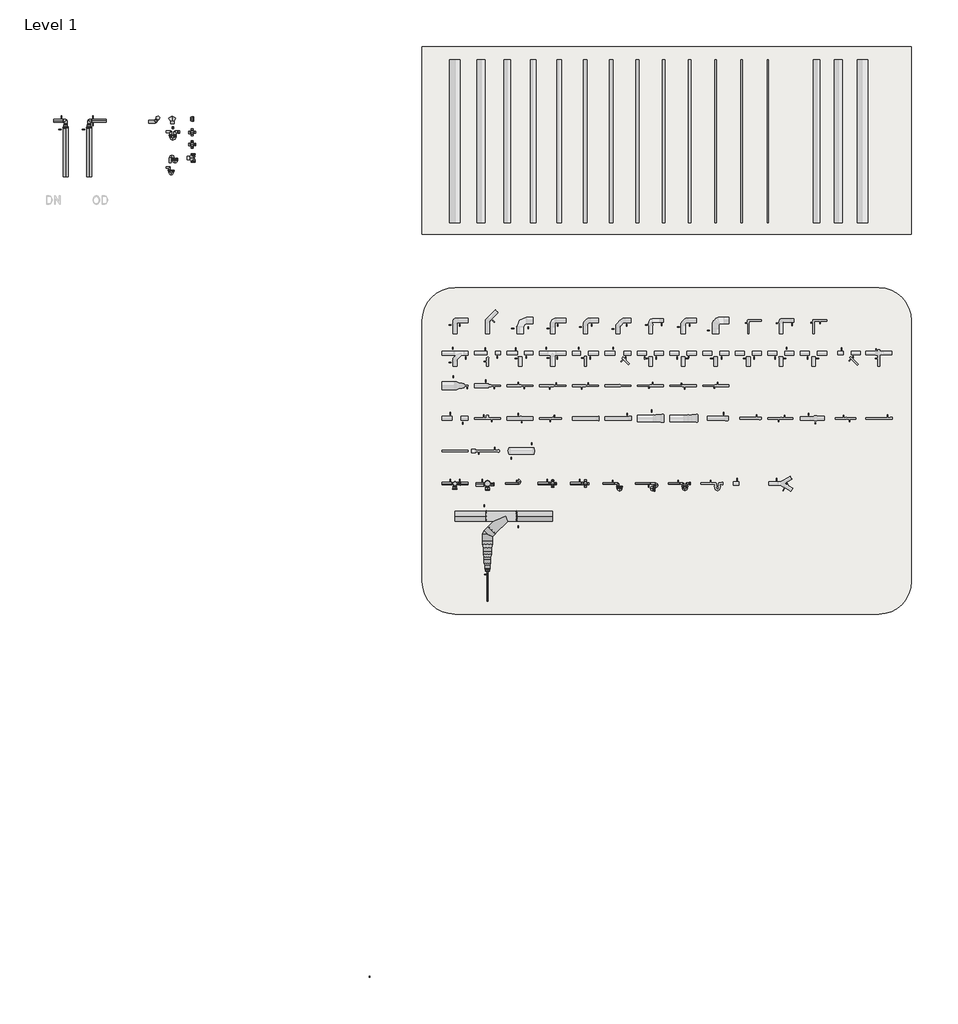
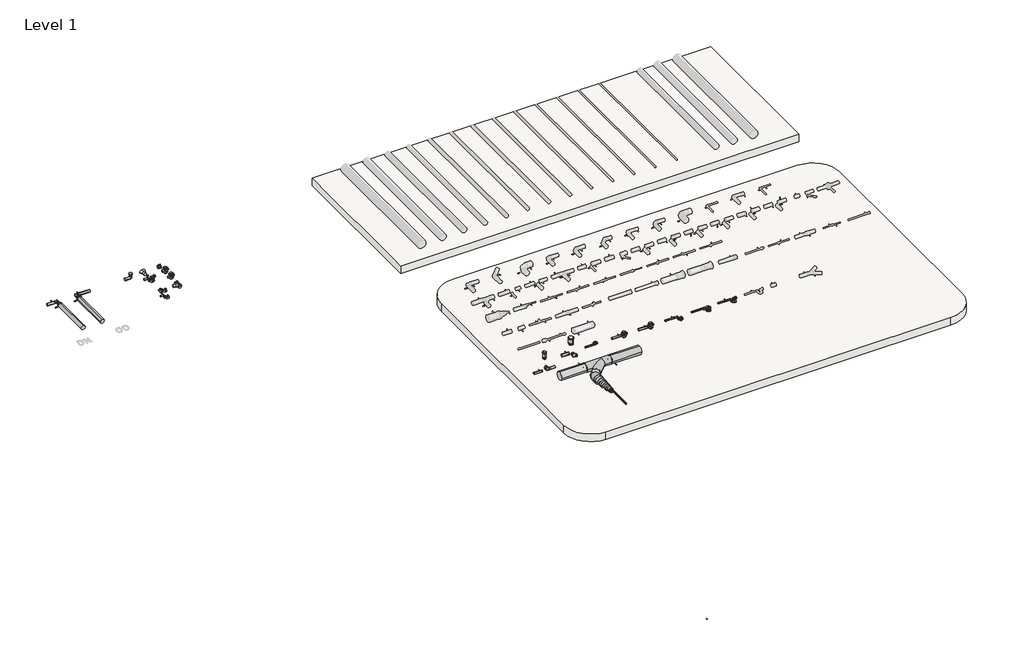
# One storey, part 1 of 6: 55 pipe fittings, 16 pipe segments, 2 slabs.
"""IFC4 building model written with IfcOpenShell, lengths in millimetres."""

from ifc_helpers import new_model, si_unit, point, frame, frame_2d, origin, place, context, project, spatial, polyline, circle_curve, trimmed, segment, composite_curve, outline, extrude, transform, mapped, element, save
from components import pipe_fitting_32baf9d8, var_2668025b, var_42bbe541, var_01cf09ba, var_9c65db2d, var_89c93119, var_733641dc, var_206d1806, var_78c70b53, var_a00c3a62, var_0cec4f12, var_dcd50663, nested_do_not_use_7641d64b, nested_do_not_use_785704b3, nested_do_not_use_4ca71223, nested_do_not_use_88acbfcf, nested_do_not_use_ac7d642e, nested_do_not_use_1a4f5e9d, nested_do_not_use_f8d48da3, nested_do_not_use_b0c1b68e, nested_do_not_use_2af66b91, nested_do_not_use_17b874a4, nested_do_not_use_0499a160, nested_do_not_use_3065b1c8, nested_do_not_use_59c94e66, nested_do_not_use_269007d1, nested_do_not_use_9fcaccac, nested_do_not_use_c7003eac, nested_do_not_use_821c716b, welded_75b1cb19, welded_63566782, welded_6cbd62db, welded_96b689ca, welded_5e4001d0, welded_60098e8d, welded_158fee2e, welded_ac007b25

model = new_model("IFC4")

# Units and contexts
model_context = context("Model", 3, world=origin())
ifc_project = project(units=[si_unit("LENGTHUNIT", "METRE", prefix="MILLI")], contexts=[model_context])

# Site, building, storey
site = spatial("IfcSite", under=ifc_project)
building = spatial("IfcBuilding", under=site)
storey = spatial("IfcBuildingStorey", under=building, Name="Level 1", Elevation=0.0)

# Pipe fittings
placement = place(None, origin())
pipe_fitting_shape = pipe_fitting_32baf9d8(model_context)
element("IfcPipeFitting", 1, ObjectType="NLRS_52_PIF_UN_HDPE weld_Akatherm : ringseal or non-welded", at=placement, inside=storey, context=model_context, shape_type="MappedRepresentation", body=[
    mapped(pipe_fitting_shape, transform((0.0, 0.0, 0.0), x_axis=(1.0, 0.0, 0.0), y_axis=(0.0, -1.0, 0.0), z_axis=(0.0, 0.0, -1.0))),
])
var_shape = var_2668025b(model_context)
element("IfcPipeFitting", 2, ObjectType="NLRS_52_PIF_UN_HDPE bend 180_Akatherm : Var.", at=placement, inside=storey, context=model_context, shape_type="MappedRepresentation", body=[
    mapped(var_shape, transform((4659.9781064, 15273.6274824, 200.0), x_axis=(1.0, 0.0, 0.0), y_axis=(0.0, 1.0, 0.0), z_axis=(0.0, 0.0, 1.0))),
])
var_2_shape = var_42bbe541(model_context)
element("IfcPipeFitting", 3, ObjectType="NLRS_52_PIF_UN_HDPE floor gully pushfit_Akatherm : Var.", at=placement, inside=storey, context=model_context, shape_type="MappedRepresentation", body=[
    mapped(var_2_shape, transform((5659.9781064, 15273.6274824, 97.0), x_axis=(1.0, 0.0, 0.0), y_axis=(0.0, 1.0, 0.0), z_axis=(0.0, 0.0, 1.0))),
])
var_3_shape = var_01cf09ba(model_context)
element("IfcPipeFitting", 4, ObjectType="NLRS_52_PIF_UN_HDPE floor gully weldable_Akatherm : Var.", at=placement, inside=storey, context=model_context, shape_type="MappedRepresentation", body=[
    mapped(var_3_shape, transform((6659.9781064, 15273.6274824, 97.0), x_axis=(1.0, 0.0, 0.0), y_axis=(0.0, 1.0, 0.0), z_axis=(0.0, 0.0, 1.0))),
])
var_4_shape = var_9c65db2d(model_context)
element("IfcPipeFitting", 5, ObjectType="NLRS_52_PIF_UN_HDPE p trap_Akatherm : Var.", at=placement, inside=storey, context=model_context, shape_type="MappedRepresentation", body=[
    mapped(var_4_shape, transform((7759.9781064, 15273.6274824, 200.0), x_axis=(1.0, 0.0, 0.0), y_axis=(0.0, 1.0, 0.0), z_axis=(0.0, 0.0, 1.0))),
])
var_5_shape = var_89c93119(model_context)
element("IfcPipeFitting", 6, ObjectType="NLRS_52_PIF_UN_HDPE s trap_Akatherm : Var.", at=placement, inside=storey, context=model_context, shape_type="MappedRepresentation", body=[
    mapped(var_5_shape, transform((8759.9781064, 15273.6274824, 200.0), x_axis=(1.0, 0.0, 0.0), y_axis=(0.0, -1.0000000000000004, 0.0), z_axis=(0.0, 0.0, -1.0000000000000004))),
])
var_6_shape = var_733641dc(model_context)
element("IfcPipeFitting", 7, ObjectType="NLRS_52_PIF_UN_HDPE u trap_Akatherm : Var.", at=placement, inside=storey, context=model_context, shape_type="MappedRepresentation", body=[
    mapped(var_6_shape, transform((9714.9781064, 15273.6274824, 200.0), x_axis=(1.0, 0.0, 0.0), y_axis=(0.0, 1.0, 0.0), z_axis=(0.0, 0.0, 1.0))),
])
var_7_shape = var_206d1806(model_context)
element("IfcPipeFitting", 8, ObjectType="NLRS_52_PIF_UN_HDPE double wall lavatory bend vertical_Akatherm : Var.", at=placement, inside=storey, context=model_context, shape_type="MappedRepresentation", body=[
    mapped(var_7_shape, transform((-5462.8230721, 25253.3842401, 0.0), x_axis=(1.0, 0.0, 0.0), y_axis=(0.0, 1.0, 0.0), z_axis=(0.0, 0.0, 1.0))),
])
element("IfcPipeFitting", 9, ObjectType="NLRS_52_PIF_UN_HDPE floor gully pushfit_Akatherm : Var.", at=placement, inside=storey, context=model_context, shape_type="MappedRepresentation", body=[
    mapped(var_2_shape, transform((-5394.2200099, 25668.9360439, 0.0), x_axis=(1.0, 0.0, 0.0), y_axis=(0.0, 1.0, 0.0), z_axis=(0.0, 0.0, 1.0))),
])
element("IfcPipeFitting", 10, ObjectType="NLRS_52_PIF_UN_HDPE floor gully weldable_Akatherm : Var.", at=placement, inside=storey, context=model_context, shape_type="MappedRepresentation", body=[
    mapped(var_3_shape, transform((-5394.2200099, 26041.0833111, 0.0), x_axis=(1.0, 0.0, 0.0), y_axis=(0.0, 1.0, 0.0), z_axis=(0.0, 0.0, 1.0))),
])
var_8_shape = var_78c70b53(model_context)
element("IfcPipeFitting", 11, ObjectType="NLRS_52_PIF_UN_HDPE floor lavatory socket_Akatherm : Var.", at=placement, inside=storey, context=model_context, shape_type="MappedRepresentation", body=[
    mapped(var_8_shape, transform((-5394.2200099, 26449.1102771, 0.0), x_axis=(1.0, 0.0, 0.0), y_axis=(0.0, 1.0, 0.0), z_axis=(0.0, 0.0, 1.0))),
])
element("IfcPipeFitting", 12, ObjectType="NLRS_52_PIF_UN_HDPE s trap_Akatherm : Var.", at=placement, inside=storey, context=model_context, shape_type="MappedRepresentation", body=[
    mapped(var_5_shape, transform((-6072.1329693, 25208.8821143, 0.0), x_axis=(0.0, 1.0, 0.0), y_axis=(1.0000000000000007, 0.0, 0.0), z_axis=(0.0, 0.0, -1.0000000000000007))),
])
var_9_shape = var_a00c3a62(model_context)
element("IfcPipeFitting", 13, ObjectType="NLRS_52_PIF_UN_HDPE u trap_Akatherm : Var.", at=placement, inside=storey, context=model_context, shape_type="MappedRepresentation", body=[
    mapped(var_9_shape, transform((-5990.4101088, 26052.3952652, 0.0), x_axis=(1.0, 0.0, 0.0), y_axis=(0.0, 1.0, 0.0), z_axis=(0.0, 0.0, 1.0))),
])
var_10_shape = var_0cec4f12(model_context)
element("IfcPipeFitting", 14, ObjectType="NLRS_52_PIF_UN_HDPE wall lavatory bend angled_Akatherm : Var.", at=placement, inside=storey, context=model_context, shape_type="MappedRepresentation", body=[
    mapped(var_10_shape, transform((-6528.1116092, 26368.2308183, 0.0), x_axis=(1.0, 0.0, 0.0), y_axis=(0.0, 1.0, 0.0), z_axis=(0.0, 0.0, 1.0))),
])
var_11_shape = var_dcd50663(model_context)
element("IfcPipeFitting", 15, ObjectType="NLRS_52_PIF_UN_HDPE y branch_Akatherm : Var.", at=placement, inside=storey, context=model_context, shape_type="MappedRepresentation", body=[
    mapped(var_11_shape, transform((-6006.2789726, 26396.2206472, 0.0), x_axis=(0.0, 1.0000000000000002, 0.0), y_axis=(-1.0000000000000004, 0.0, 0.0), z_axis=(0.0, 0.0, 1.0000000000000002))),
])
element("IfcPipeFitting", 16, ObjectType="NLRS_52_PIF_UN_HDPE p trap_Akatherm : Var.", at=placement, inside=storey, context=model_context, shape_type="MappedRepresentation", body=[
    mapped(var_4_shape, transform((-5990.4101088, 24964.0057524, 0.0), x_axis=(1.0, 0.0, 0.0), y_axis=(0.0, 1.0, 0.0), z_axis=(0.0, 0.0, 1.0))),
])
nested_do_not_use_shape = nested_do_not_use_7641d64b(model_context)
element("IfcPipeFitting", 17, ObjectType="NLRS_52_PIF_UN_HDPE elbow for bend assembly -SH_Akatherm : nested, do not use", at=placement, inside=storey, context=model_context, shape_type="MappedRepresentation", body=[
    mapped(nested_do_not_use_shape, transform((-9278.4772443, 26396.2206472, 0.0), x_axis=(0.0, 1.0, 0.0), y_axis=(-1.0, 0.0, 0.0), z_axis=(0.0, 0.0, 1.0))),
])
element("IfcPipeFitting", 18, ObjectType="NLRS_52_PIF_UN_HDPE elbow for bend assembly -SH_Akatherm : nested, do not use", at=placement, inside=storey, context=model_context, shape_type="MappedRepresentation", body=[
    mapped(nested_do_not_use_shape, transform((-8558.4772443, 26396.2206472, 0.0), x_axis=(-1.0, 0.0, 0.0), y_axis=(0.0, -1.0, 0.0), z_axis=(0.0, 0.0, 1.0))),
])
nested_do_not_use_2_shape = nested_do_not_use_785704b3(model_context)
element("IfcPipeFitting", 19, ObjectType="NLRS_52_PIF_UN_HDPE elbow for branch assembly -SH_Akatherm : nested, do not use", at=placement, inside=storey, context=model_context, shape_type="MappedRepresentation", body=[
    mapped(nested_do_not_use_2_shape, transform((3659.9781064, 13716.0030748, 200.0), x_axis=(0.0, 1.0, 0.0), y_axis=(-1.0, 0.0, 0.0), z_axis=(0.0, 0.0, 1.0))),
])
nested_do_not_use_3_shape = nested_do_not_use_4ca71223(model_context)
element("IfcPipeFitting", 20, ObjectType="NLRS_52_PIF_UN_HDPE expansion socket with anchor point -SH_Akatherm : nested, do not use", at=placement, inside=storey, context=model_context, shape_type="MappedRepresentation", body=[
    mapped(nested_do_not_use_3_shape, transform((2659.9781064, 15273.6274824, 329.5), x_axis=(0.0, 0.0, 1.0), y_axis=(0.0, 1.0000000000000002, 0.0), z_axis=(-1.0000000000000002, 0.0, 0.0))),
])
nested_do_not_use_4_shape = nested_do_not_use_88acbfcf(model_context)
element("IfcPipeFitting", 21, ObjectType="NLRS_52_PIF_UN_HDPE expansion socket with anchor point -SH_Akatherm : nested, do not use", at=placement, inside=storey, context=model_context, shape_type="MappedRepresentation", body=[
    mapped(nested_do_not_use_4_shape, transform((3659.9781064, 15273.6274824, 562.0), x_axis=(0.0, 0.0, 1.0), y_axis=(0.0, 1.0000000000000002, 0.0), z_axis=(-1.0000000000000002, 0.0, 0.0))),
])
nested_do_not_use_5_shape = nested_do_not_use_ac7d642e(model_context)
element("IfcPipeFitting", 22, ObjectType="NLRS_52_PIF_UN_HDPE plugin socket -SH_Akatherm : nested, do not use", at=placement, inside=storey, context=model_context, shape_type="MappedRepresentation", body=[
    mapped(nested_do_not_use_5_shape, transform((2659.9781064, 15165.8274824, 0.0), x_axis=(0.0, -1.0000000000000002, 0.0), y_axis=(0.0, 0.0, 1.0), z_axis=(-1.0000000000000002, 0.0, 0.0))),
])
element("IfcPipeFitting", 23, ObjectType="NLRS_52_PIF_UN_HDPE plugin socket -SH_Akatherm : nested, do not use", at=placement, inside=storey, context=model_context, shape_type="MappedRepresentation", body=[
    mapped(nested_do_not_use_5_shape, transform((3659.9781064, 15140.8274824, 200.0), x_axis=(0.0, -1.0000000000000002, 0.0), y_axis=(0.0, 0.0, 1.0), z_axis=(-1.0000000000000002, 0.0, 0.0))),
])
nested_do_not_use_6_shape = nested_do_not_use_1a4f5e9d(model_context)
element("IfcPipeFitting", 24, ObjectType="NLRS_52_PIF_UN_HDPE plugin socket -SH_Akatherm : nested, do not use", at=placement, inside=storey, context=model_context, shape_type="MappedRepresentation", body=[
    mapped(nested_do_not_use_6_shape, transform((2767.2781064, 15273.6274824, -170.0), x_axis=(1.0000000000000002, 0.0, 0.0), y_axis=(0.0, 0.0, 1.0), z_axis=(0.0, -1.0000000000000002, 0.0))),
])
element("IfcPipeFitting", 25, ObjectType="NLRS_52_PIF_UN_HDPE plugin socket -SH_Akatherm : nested, do not use", at=placement, inside=storey, context=model_context, shape_type="MappedRepresentation", body=[
    mapped(nested_do_not_use_6_shape, transform((3792.2781064, 15248.6274824, 30.0), x_axis=(1.0000000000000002, 0.0, 0.0), y_axis=(0.0, 0.0, 1.0), z_axis=(0.0, -1.0000000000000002, 0.0))),
])
nested_do_not_use_7_shape = nested_do_not_use_f8d48da3(model_context)
element("IfcPipeFitting", 26, ObjectType="NLRS_52_PIF_UN_HDPE reducer -SH_Akatherm : nested, do not use", at=placement, inside=storey, context=model_context, shape_type="MappedRepresentation", body=[
    mapped(nested_do_not_use_7_shape, transform((-9278.4772443, 26211.0206472, 0.0), x_axis=(0.0, 1.0, 0.0), y_axis=(-1.0, 0.0, 0.0), z_axis=(0.0, 0.0, 1.0))),
])
element("IfcPipeFitting", 27, ObjectType="NLRS_52_PIF_UN_HDPE reducer -SH_Akatherm : nested, do not use", at=placement, inside=storey, context=model_context, shape_type="MappedRepresentation", body=[
    mapped(nested_do_not_use_7_shape, transform((-8558.4772443, 26211.0206472, 0.0), x_axis=(0.0, 1.0, 0.0), y_axis=(-1.0, 0.0, 0.0), z_axis=(0.0, 0.0, 1.0))),
])
nested_do_not_use_8_shape = nested_do_not_use_b0c1b68e(model_context)
element("IfcPipeFitting", 28, ObjectType="NLRS_52_PIF_UN_HDPE reducer -SH_Akatherm : nested, do not use", at=placement, inside=storey, context=model_context, shape_type="MappedRepresentation", body=[
    mapped(nested_do_not_use_8_shape, transform((3659.9781064, 13368.1530748, 200.0), x_axis=(0.0, -1.0, 0.0), y_axis=(1.0, 0.0, 0.0), z_axis=(0.0, 0.0, 1.0))),
])
nested_do_not_use_9_shape = nested_do_not_use_2af66b91(model_context)
element("IfcPipeFitting", 29, ObjectType="NLRS_52_PIF_UN_HDPE reducer -SH_Akatherm : nested, do not use", at=placement, inside=storey, context=model_context, shape_type="MappedRepresentation", body=[
    mapped(nested_do_not_use_9_shape, transform((3659.9781064, 13067.3030748, 229.0), x_axis=(0.0, -1.0, 0.0), y_axis=(1.0, 0.0, 0.0), z_axis=(0.0, 0.0, 1.0))),
])
nested_do_not_use_10_shape = nested_do_not_use_17b874a4(model_context)
element("IfcPipeFitting", 30, ObjectType="NLRS_52_PIF_UN_HDPE reducer -SH_Akatherm : nested, do not use", at=placement, inside=storey, context=model_context, shape_type="MappedRepresentation", body=[
    mapped(nested_do_not_use_10_shape, transform((3659.9781064, 12803.7030748, 251.5), x_axis=(0.0, -1.0, 0.0), y_axis=(1.0, 0.0, 0.0), z_axis=(0.0, 0.0, 1.0))),
])
nested_do_not_use_11_shape = nested_do_not_use_0499a160(model_context)
element("IfcPipeFitting", 31, ObjectType="NLRS_52_PIF_UN_HDPE reducer -SH_Akatherm : nested, do not use", at=placement, inside=storey, context=model_context, shape_type="MappedRepresentation", body=[
    mapped(nested_do_not_use_11_shape, transform((3659.9781064, 12643.1030748, 269.0), x_axis=(0.0, -1.0, 0.0), y_axis=(1.0, 0.0, 0.0), z_axis=(0.0, 0.0, 1.0))),
])
nested_do_not_use_12_shape = nested_do_not_use_3065b1c8(model_context)
element("IfcPipeFitting", 32, ObjectType="NLRS_52_PIF_UN_HDPE reducer -SH_Akatherm : nested, do not use", at=placement, inside=storey, context=model_context, shape_type="MappedRepresentation", body=[
    mapped(nested_do_not_use_12_shape, transform((3659.9781064, 12570.5030748, 292.0), x_axis=(0.0, -1.0, 0.0), y_axis=(1.0, 0.0, 0.0), z_axis=(0.0, 0.0, 1.0))),
])
nested_do_not_use_13_shape = nested_do_not_use_59c94e66(model_context)
element("IfcPipeFitting", 33, ObjectType="NLRS_52_PIF_UN_HDPE reducer -SH_Akatherm : nested, do not use", at=placement, inside=storey, context=model_context, shape_type="MappedRepresentation", body=[
    mapped(nested_do_not_use_13_shape, transform((-9278.4772443, 26283.6206472, 0.0), x_axis=(0.0, 1.0, 0.0), y_axis=(-1.0, 0.0, 0.0), z_axis=(0.0, 0.0, 1.0))),
])
element("IfcPipeFitting", 34, ObjectType="NLRS_52_PIF_UN_HDPE reducer -SH_Akatherm : nested, do not use", at=placement, inside=storey, context=model_context, shape_type="MappedRepresentation", body=[
    mapped(nested_do_not_use_13_shape, transform((-8558.4772443, 26283.6206472, 0.0), x_axis=(0.0, 1.0, 0.0), y_axis=(-1.0, 0.0, 0.0), z_axis=(0.0, 0.0, 1.0))),
])
nested_do_not_use_14_shape = nested_do_not_use_269007d1(model_context)
element("IfcPipeFitting", 35, ObjectType="NLRS_52_PIF_UN_HDPE rubber sleeve -SH_Akatherm : nested, do not use", at=placement, inside=storey, context=model_context, shape_type="MappedRepresentation", body=[
    mapped(nested_do_not_use_14_shape, transform((-5979.4101088, 26180.4206472, 0.0), x_axis=(1.0, 0.0, 0.0), y_axis=(0.0, 1.0, 0.0), z_axis=(0.0, 0.0, 1.0))),
])
nested_do_not_use_15_shape = nested_do_not_use_9fcaccac(model_context)
element("IfcPipeFitting", 36, ObjectType="NLRS_52_PIF_UN_HDPE trap connecting socket -SH_Akatherm : nested, do not use", at=placement, inside=storey, context=model_context, shape_type="MappedRepresentation", body=[
    mapped(nested_do_not_use_15_shape, transform((-5990.4101088, 26180.4206472, 0.0), x_axis=(1.0, 0.0, 0.0), y_axis=(0.0, 1.0, 0.0), z_axis=(0.0, 0.0, 1.0))),
])
nested_do_not_use_16_shape = nested_do_not_use_c7003eac(model_context)
element("IfcPipeFitting", 37, ObjectType="NLRS_52_PIF_UN_HDPE equal branch -SH_Akatherm : nested, do not use", at=placement, inside=storey, context=model_context, shape_type="MappedRepresentation", body=[
    mapped(nested_do_not_use_16_shape, transform((4217.6025141, 14273.6274824, 200.0), x_axis=(-1.0, 0.0, 0.0), y_axis=(0.0, -1.0, 0.0), z_axis=(0.0, 0.0, 1.0))),
])
nested_do_not_use_17_shape = nested_do_not_use_821c716b(model_context)
element("IfcPipeFitting", 38, ObjectType="NLRS_52_PIF_UN_HDPE rubber seal -SH_Akatherm : nested, do not use", at=placement, inside=storey, context=model_context, shape_type="MappedRepresentation", body=[
    mapped(nested_do_not_use_17_shape, transform((-5350.2200099, 26449.1102771, 0.0), x_axis=(1.0, 0.0, 0.0), y_axis=(0.0, 1.0, 0.0), z_axis=(0.0, 0.0, 1.0))),
])
welded_shape = welded_75b1cb19(model_context)
element("IfcPipeFitting", 39, ObjectType="NLRS_52_PIF_UN_HDPE weld_Akatherm : welded", at=placement, inside=storey, context=model_context, shape_type="MappedRepresentation", body=[
    mapped(welded_shape, transform((4606.6781064, 15273.6274824, 200.0), x_axis=(-1.0, 0.0, 0.0), y_axis=(0.0, -0.9982876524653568, 0.05849583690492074), z_axis=(0.0, 0.05849583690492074, 0.9982876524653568))),
])
element("IfcPipeFitting", 40, ObjectType="NLRS_52_PIF_UN_HDPE weld_Akatherm : welded", at=placement, inside=storey, context=model_context, shape_type="MappedRepresentation", body=[
    mapped(welded_shape, transform((7557.6781064, 15273.6274824, 200.0), x_axis=(-1.0, 0.0, 0.0), y_axis=(0.0, -1.0, 0.0), z_axis=(0.0, 0.0, 1.0))),
])
element("IfcPipeFitting", 41, ObjectType="NLRS_52_PIF_UN_HDPE weld_Akatherm : welded", at=placement, inside=storey, context=model_context, shape_type="MappedRepresentation", body=[
    mapped(welded_shape, transform((8655.1781064, 15273.6274824, 200.0), x_axis=(-1.0, 0.0, 0.0), y_axis=(0.0, 1.0, 0.0), z_axis=(0.0, 0.0, -1.0))),
])
element("IfcPipeFitting", 42, ObjectType="NLRS_52_PIF_UN_HDPE weld_Akatherm : welded", at=placement, inside=storey, context=model_context, shape_type="MappedRepresentation", body=[
    mapped(welded_shape, transform((9557.6781064, 15273.6274824, 200.0), x_axis=(-1.0, 0.0, 0.0), y_axis=(0.0, -1.0, 0.0), z_axis=(0.0, 0.0, 1.0))),
])
welded_2_shape = welded_63566782(model_context)
element("IfcPipeFitting", 43, ObjectType="NLRS_52_PIF_UN_HDPE weld_Akatherm : welded", at=placement, inside=storey, context=model_context, shape_type="MappedRepresentation", body=[
    mapped(welded_2_shape, transform((3659.9781064, 12532.2030748, 325.0), x_axis=(0.0, -1.0, 0.0), y_axis=(1.0, 0.0, 0.0), z_axis=(0.0, 0.0, 1.0))),
])
welded_3_shape = welded_6cbd62db(model_context)
element("IfcPipeFitting", 44, ObjectType="NLRS_52_PIF_UN_HDPE weld_Akatherm : welded", at=placement, inside=storey, context=model_context, shape_type="MappedRepresentation", body=[
    mapped(welded_3_shape, transform((2572.1781064, 15273.6274824, -170.0), x_axis=(-1.0, 0.0, 0.0), y_axis=(0.0, -1.0, 0.0), z_axis=(0.0, 0.0, 1.0))),
])
element("IfcPipeFitting", 45, ObjectType="NLRS_52_PIF_UN_HDPE weld_Akatherm : welded", at=placement, inside=storey, context=model_context, shape_type="MappedRepresentation", body=[
    mapped(welded_3_shape, transform((2767.2781064, 15273.6274824, -170.0), x_axis=(1.0, 0.0, 0.0), y_axis=(0.0, -1.0, 0.0), z_axis=(0.0, 0.0, -1.0))),
])
element("IfcPipeFitting", 46, ObjectType="NLRS_52_PIF_UN_HDPE weld_Akatherm : welded", at=placement, inside=storey, context=model_context, shape_type="MappedRepresentation", body=[
    mapped(welded_3_shape, transform((5545.5781064, 15273.6274824, 200.0), x_axis=(-1.0, 0.0, 0.0), y_axis=(0.0, -1.0, 0.0), z_axis=(0.0, 0.0, 1.0))),
])
element("IfcPipeFitting", 47, ObjectType="NLRS_52_PIF_UN_HDPE weld_Akatherm : welded", at=placement, inside=storey, context=model_context, shape_type="MappedRepresentation", body=[
    mapped(welded_3_shape, transform((6545.5781064, 15273.6274824, 200.0), x_axis=(-1.0, 0.0, 0.0), y_axis=(0.0, -1.0, 0.0), z_axis=(0.0, 0.0, 1.0))),
])
welded_4_shape = welded_96b689ca(model_context)
element("IfcPipeFitting", 48, ObjectType="NLRS_52_PIF_UN_HDPE weld_Akatherm : welded", at=placement, inside=storey, context=model_context, shape_type="MappedRepresentation", body=[
    mapped(welded_4_shape, transform((3615.8025141, 14273.6274824, 200.0), x_axis=(-1.0, 0.0, 0.0), y_axis=(0.0, -1.0, 0.0), z_axis=(0.0, 0.0, 1.0))),
])
element("IfcPipeFitting", 49, ObjectType="NLRS_52_PIF_UN_HDPE weld_Akatherm : welded", at=placement, inside=storey, context=model_context, shape_type="MappedRepresentation", body=[
    mapped(welded_4_shape, transform((4549.4025141, 14273.6274824, 200.0), x_axis=(1.0, 0.0, 0.0), y_axis=(0.0, 1.0, 0.0), z_axis=(0.0, 0.0, 1.0))),
])
welded_5_shape = welded_5e4001d0(model_context)
element("IfcPipeFitting", 50, ObjectType="NLRS_52_PIF_UN_HDPE weld_Akatherm : welded", at=placement, inside=storey, context=model_context, shape_type="MappedRepresentation", body=[
    mapped(welded_5_shape, transform((-9354.7772443, 26396.2206472, 0.0), x_axis=(-1.0, 0.0, 0.0), y_axis=(0.0, -1.0, 0.0), z_axis=(0.0, 0.0, 1.0))),
])
element("IfcPipeFitting", 51, ObjectType="NLRS_52_PIF_UN_HDPE weld_Akatherm : welded", at=placement, inside=storey, context=model_context, shape_type="MappedRepresentation", body=[
    mapped(welded_5_shape, transform((-8482.1772443, 26396.2206472, 0.0), x_axis=(1.0, 0.0, 0.0), y_axis=(0.0, 1.0, 0.0), z_axis=(0.0, 0.0, 1.0))),
])
welded_6_shape = welded_60098e8d(model_context)
element("IfcPipeFitting", 52, ObjectType="NLRS_52_PIF_UN_HDPE weld_Akatherm : welded", at=placement, inside=storey, context=model_context, shape_type="MappedRepresentation", body=[
    mapped(welded_6_shape, transform((-9278.4772443, 26175.7206472, 0.0), x_axis=(0.0, -1.0, 0.0), y_axis=(1.0, 0.0, 0.0), z_axis=(0.0, 0.0, 1.0))),
])
element("IfcPipeFitting", 53, ObjectType="NLRS_52_PIF_UN_HDPE weld_Akatherm : welded", at=placement, inside=storey, context=model_context, shape_type="MappedRepresentation", body=[
    mapped(welded_6_shape, transform((-8558.4772443, 26175.7206472, 0.0), x_axis=(0.0, -1.0, 0.0), y_axis=(1.0, 0.0, 0.0), z_axis=(0.0, 0.0, 1.0))),
])
welded_7_shape = welded_158fee2e(model_context)
element("IfcPipeFitting", 54, ObjectType="NLRS_52_PIF_UN_HDPE weld_Akatherm : welded", at=placement, inside=storey, context=model_context, shape_type="MappedRepresentation", body=[
    mapped(welded_7_shape, transform((-8482.1772443, 26396.2206472, 0.0), x_axis=(1.0, 0.0, 0.0), y_axis=(0.0, 1.0, 0.0), z_axis=(0.0, 0.0, 1.0))),
])
welded_8_shape = welded_ac007b25(model_context)
element("IfcPipeFitting", 55, ObjectType="NLRS_52_PIF_UN_HDPE weld_Akatherm : welded", at=placement, inside=storey, context=model_context, shape_type="MappedRepresentation", body=[
    mapped(welded_8_shape, transform((3557.1781064, 15248.6274824, 200.0), x_axis=(-1.0, 0.0, 0.0), y_axis=(0.0, -1.0, 0.0), z_axis=(0.0, 0.0, 1.0))),
])

# Pipe segments
element("IfcPipeSegment", 56, ObjectType="NLRS_52_PI_HDPE buis (DN)_Akatherm", at=placement, inside=storey, context=model_context, shape_type="SweptSolid", body=[
    extrude(outline(composite_curve([segment(trimmed(circle_curve(frame_2d((15248.6274824, 200.0)), 55.0), [point((15303.6274824, 200.0))], [point((15248.6274824, 145.0))], False, "CARTESIAN"), True, "CONTINUOUS"), segment(trimmed(circle_curve(frame_2d((15248.6274824, 200.0)), 55.0), [point((15248.6274824, 145.0))], [point((15193.6274824, 200.0))], False, "CARTESIAN"), True, "CONTINUOUS"), segment(trimmed(circle_curve(frame_2d((15248.6274824, 200.0)), 55.0), [point((15193.6274824, 200.0))], [point((15248.6274824, 255.0))], False, "CARTESIAN"), True, "CONTINUOUS"), segment(trimmed(circle_curve(frame_2d((15248.6274824, 200.0)), 55.0), [point((15248.6274824, 255.0))], [point((15303.6274824, 200.0))], False, "CARTESIAN"), True, "CONTINUOUS")], self_intersect=False)), frame((3300.9781064, 0.0, 0.0), z_axis=(1.0, 0.0, 0.0), x_axis=(0.0, 1.0, 0.0)), (0.0, 0.0, 1.0), 259.9),
])
element("IfcPipeSegment", 57, ObjectType="NLRS_52_PI_HDPE buis (DN)_Akatherm", at=placement, inside=storey, context=model_context, shape_type="SweptSolid", body=[
    extrude(outline(composite_curve([segment(trimmed(circle_curve(frame_2d((15273.6274824, -170.0)), 37.5), [point((15311.1274824, -170.0))], [point((15273.6274824, -207.5))], False, "CARTESIAN"), True, "CONTINUOUS"), segment(trimmed(circle_curve(frame_2d((15273.6274824, -170.0)), 37.5), [point((15273.6274824, -207.5))], [point((15236.1274824, -170.0))], False, "CARTESIAN"), True, "CONTINUOUS"), segment(trimmed(circle_curve(frame_2d((15273.6274824, -170.0)), 37.5), [point((15236.1274824, -170.0))], [point((15273.6274824, -132.5))], False, "CARTESIAN"), True, "CONTINUOUS"), segment(trimmed(circle_curve(frame_2d((15273.6274824, -170.0)), 37.5), [point((15273.6274824, -132.5))], [point((15311.1274824, -170.0))], False, "CARTESIAN"), True, "CONTINUOUS")], self_intersect=False)), frame((2259.9781064, 0.0, 0.0), z_axis=(1.0, 0.0, 0.0), x_axis=(0.0, 1.0, 0.0)), (0.0, 0.0, 1.0), 314.7),
])
element("IfcPipeSegment", 58, ObjectType="NLRS_52_PI_HDPE buis (DN)_Akatherm", at=placement, inside=storey, context=model_context, shape_type="SweptSolid", body=[
    extrude(outline(composite_curve([segment(trimmed(circle_curve(frame_2d((15273.6274824, -170.0)), 37.5), [point((15236.1274824, -170.0))], [point((15273.6274824, -132.5))], False, "CARTESIAN"), True, "CONTINUOUS"), segment(trimmed(circle_curve(frame_2d((15273.6274824, -170.0)), 37.5), [point((15273.6274824, -132.5))], [point((15311.1274824, -170.0))], False, "CARTESIAN"), True, "CONTINUOUS"), segment(trimmed(circle_curve(frame_2d((15273.6274824, -170.0)), 37.5), [point((15311.1274824, -170.0))], [point((15273.6274824, -207.5))], False, "CARTESIAN"), True, "CONTINUOUS"), segment(trimmed(circle_curve(frame_2d((15273.6274824, -170.0)), 37.5), [point((15273.6274824, -207.5))], [point((15236.1274824, -170.0))], False, "CARTESIAN"), True, "CONTINUOUS")], self_intersect=False)), frame((2764.7781064, 0.0, 0.0), z_axis=(1.0, 0.0, 0.0), x_axis=(0.0, 1.0, 0.0)), (0.0, 0.0, 1.0), 295.2),
])
element("IfcPipeSegment", 59, ObjectType="NLRS_52_PI_HDPE buis (DN)_Akatherm", at=placement, inside=storey, context=model_context, shape_type="SweptSolid", body=[
    extrude(outline(composite_curve([segment(trimmed(circle_curve(frame_2d((15273.6274824, 200.0)), 25.0), [point((15298.6274824, 200.0))], [point((15273.6274824, 175.0))], False, "CARTESIAN"), True, "CONTINUOUS"), segment(trimmed(circle_curve(frame_2d((15273.6274824, 200.0)), 25.0), [point((15273.6274824, 175.0))], [point((15248.6274824, 200.0))], False, "CARTESIAN"), True, "CONTINUOUS"), segment(trimmed(circle_curve(frame_2d((15273.6274824, 200.0)), 25.0), [point((15248.6274824, 200.0))], [point((15273.6274824, 225.0))], False, "CARTESIAN"), True, "CONTINUOUS"), segment(trimmed(circle_curve(frame_2d((15273.6274824, 200.0)), 25.0), [point((15273.6274824, 225.0))], [point((15298.6274824, 200.0))], False, "CARTESIAN"), True, "CONTINUOUS")], self_intersect=False)), frame((4204.9781064, 0.0, 0.0), z_axis=(1.0, 0.0, 0.0), x_axis=(0.0, 1.0, 0.0)), (0.0, 0.0, 1.0), 403.4),
])
element("IfcPipeSegment", 60, ObjectType="NLRS_52_PI_HDPE buis (DN)_Akatherm", at=placement, inside=storey, context=model_context, shape_type="SweptSolid", body=[
    extrude(outline(composite_curve([segment(trimmed(circle_curve(frame_2d((15273.6274824, 200.0)), 37.5), [point((15311.1274824, 200.0))], [point((15273.6274824, 162.5))], False, "CARTESIAN"), True, "CONTINUOUS"), segment(trimmed(circle_curve(frame_2d((15273.6274824, 200.0)), 37.5), [point((15273.6274824, 162.5))], [point((15236.1274824, 200.0))], False, "CARTESIAN"), True, "CONTINUOUS"), segment(trimmed(circle_curve(frame_2d((15273.6274824, 200.0)), 37.5), [point((15236.1274824, 200.0))], [point((15273.6274824, 237.5))], False, "CARTESIAN"), True, "CONTINUOUS"), segment(trimmed(circle_curve(frame_2d((15273.6274824, 200.0)), 37.5), [point((15273.6274824, 237.5))], [point((15311.1274824, 200.0))], False, "CARTESIAN"), True, "CONTINUOUS")], self_intersect=False)), frame((5204.9781064, 0.0, 0.0), z_axis=(1.0, 0.0, 0.0), x_axis=(0.0, 1.0, 0.0)), (0.0, 0.0, 1.0), 343.1),
])
element("IfcPipeSegment", 61, ObjectType="NLRS_52_PI_HDPE buis (DN)_Akatherm", at=placement, inside=storey, context=model_context, shape_type="SweptSolid", body=[
    extrude(outline(composite_curve([segment(trimmed(circle_curve(frame_2d((15273.6274824, 200.0)), 37.5), [point((15311.1274824, 200.0))], [point((15273.6274824, 162.5))], False, "CARTESIAN"), True, "CONTINUOUS"), segment(trimmed(circle_curve(frame_2d((15273.6274824, 200.0)), 37.5), [point((15273.6274824, 162.5))], [point((15236.1274824, 200.0))], False, "CARTESIAN"), True, "CONTINUOUS"), segment(trimmed(circle_curve(frame_2d((15273.6274824, 200.0)), 37.5), [point((15236.1274824, 200.0))], [point((15273.6274824, 237.5))], False, "CARTESIAN"), True, "CONTINUOUS"), segment(trimmed(circle_curve(frame_2d((15273.6274824, 200.0)), 37.5), [point((15273.6274824, 237.5))], [point((15311.1274824, 200.0))], False, "CARTESIAN"), True, "CONTINUOUS")], self_intersect=False)), frame((6204.9781064, 0.0, 0.0), z_axis=(1.0, 0.0, 0.0), x_axis=(0.0, 1.0, 0.0)), (0.0, 0.0, 1.0), 343.1),
])
element("IfcPipeSegment", 62, ObjectType="NLRS_52_PI_HDPE buis (DN)_Akatherm", at=placement, inside=storey, context=model_context, shape_type="SweptSolid", body=[
    extrude(outline(composite_curve([segment(trimmed(circle_curve(frame_2d((15273.6274824, 200.0)), 25.0), [point((15298.6274824, 200.0))], [point((15273.6274824, 175.0))], False, "CARTESIAN"), True, "CONTINUOUS"), segment(trimmed(circle_curve(frame_2d((15273.6274824, 200.0)), 25.0), [point((15273.6274824, 175.0))], [point((15248.6274824, 200.0))], False, "CARTESIAN"), True, "CONTINUOUS"), segment(trimmed(circle_curve(frame_2d((15273.6274824, 200.0)), 25.0), [point((15248.6274824, 200.0))], [point((15273.6274824, 225.0))], False, "CARTESIAN"), True, "CONTINUOUS"), segment(trimmed(circle_curve(frame_2d((15273.6274824, 200.0)), 25.0), [point((15273.6274824, 225.0))], [point((15298.6274824, 200.0))], False, "CARTESIAN"), True, "CONTINUOUS")], self_intersect=False)), frame((7204.9781064, 0.0, 0.0), z_axis=(1.0, 0.0, 0.0), x_axis=(0.0, 1.0, 0.0)), (0.0, 0.0, 1.0), 354.4),
])
element("IfcPipeSegment", 63, ObjectType="NLRS_52_PI_HDPE buis (DN)_Akatherm", at=placement, inside=storey, context=model_context, shape_type="SweptSolid", body=[
    extrude(outline(composite_curve([segment(trimmed(circle_curve(frame_2d((15273.6274824, 200.0)), 25.0), [point((15298.6274824, 200.0))], [point((15273.6274824, 175.0))], False, "CARTESIAN"), True, "CONTINUOUS"), segment(trimmed(circle_curve(frame_2d((15273.6274824, 200.0)), 25.0), [point((15273.6274824, 175.0))], [point((15248.6274824, 200.0))], False, "CARTESIAN"), True, "CONTINUOUS"), segment(trimmed(circle_curve(frame_2d((15273.6274824, 200.0)), 25.0), [point((15248.6274824, 200.0))], [point((15273.6274824, 225.0))], False, "CARTESIAN"), True, "CONTINUOUS"), segment(trimmed(circle_curve(frame_2d((15273.6274824, 200.0)), 25.0), [point((15273.6274824, 225.0))], [point((15298.6274824, 200.0))], False, "CARTESIAN"), True, "CONTINUOUS")], self_intersect=False)), frame((8204.9781064, 0.0, 0.0), z_axis=(1.0, 0.0, 0.0), x_axis=(0.0, 1.0, 0.0)), (0.0, 0.0, 1.0), 451.9),
])
element("IfcPipeSegment", 64, ObjectType="NLRS_52_PI_HDPE buis (DN)_Akatherm", at=placement, inside=storey, context=model_context, shape_type="SweptSolid", body=[
    extrude(outline(composite_curve([segment(trimmed(circle_curve(frame_2d((15273.6274824, 200.0)), 25.0), [point((15298.6274824, 200.0))], [point((15273.6274824, 175.0))], False, "CARTESIAN"), True, "CONTINUOUS"), segment(trimmed(circle_curve(frame_2d((15273.6274824, 200.0)), 25.0), [point((15273.6274824, 175.0))], [point((15248.6274824, 200.0))], False, "CARTESIAN"), True, "CONTINUOUS"), segment(trimmed(circle_curve(frame_2d((15273.6274824, 200.0)), 25.0), [point((15248.6274824, 200.0))], [point((15273.6274824, 225.0))], False, "CARTESIAN"), True, "CONTINUOUS"), segment(trimmed(circle_curve(frame_2d((15273.6274824, 200.0)), 25.0), [point((15273.6274824, 225.0))], [point((15298.6274824, 200.0))], False, "CARTESIAN"), True, "CONTINUOUS")], self_intersect=False)), frame((9204.9781064, 0.0, 0.0), z_axis=(1.0, 0.0, 0.0), x_axis=(0.0, 1.0, 0.0)), (0.0, 0.0, 1.0), 354.4),
])
element("IfcPipeSegment", 65, ObjectType="NLRS_52_PI_HDPE buis (DN)_Akatherm", at=placement, inside=storey, context=model_context, shape_type="SweptSolid", body=[
    extrude(outline(composite_curve([segment(trimmed(circle_curve(frame_2d((325.0, 3659.9781064)), 20.0), [point((325.0, 3639.9781064))], [point((305.0, 3659.9781064))], False, "CARTESIAN"), True, "CONTINUOUS"), segment(trimmed(circle_curve(frame_2d((325.0, 3659.9781064)), 20.0), [point((305.0, 3659.9781064))], [point((325.0, 3679.9781064))], False, "CARTESIAN"), True, "CONTINUOUS"), segment(trimmed(circle_curve(frame_2d((325.0, 3659.9781064)), 20.0), [point((325.0, 3679.9781064))], [point((345.0, 3659.9781064))], False, "CARTESIAN"), True, "CONTINUOUS"), segment(trimmed(circle_curve(frame_2d((325.0, 3659.9781064)), 20.0), [point((345.0, 3659.9781064))], [point((325.0, 3639.9781064))], False, "CARTESIAN"), True, "CONTINUOUS")], self_intersect=False)), frame((0.0, 11673.6274824, 0.0), z_axis=(0.0, 1.0, 0.0), x_axis=(0.0, 0.0, 1.0)), (0.0, 0.0, 1.0), 860.2755924),
])
element("IfcPipeSegment", 66, ObjectType="NLRS_52_PI_HDPE buis (DN)_Akatherm", at=placement, inside=storey, context=model_context, shape_type="SweptSolid", body=[
    extrude(outline(composite_curve([segment(trimmed(circle_curve(frame_2d((14273.6274824, 200.0)), 157.5), [point((14116.1274824, 200.0))], [point((14273.6274824, 357.5))], False, "CARTESIAN"), True, "CONTINUOUS"), segment(trimmed(circle_curve(frame_2d((14273.6274824, 200.0)), 157.5), [point((14273.6274824, 357.5))], [point((14431.1274824, 200.0))], False, "CARTESIAN"), True, "CONTINUOUS"), segment(trimmed(circle_curve(frame_2d((14273.6274824, 200.0)), 157.5), [point((14431.1274824, 200.0))], [point((14273.6274824, 42.5))], False, "CARTESIAN"), True, "CONTINUOUS"), segment(trimmed(circle_curve(frame_2d((14273.6274824, 200.0)), 157.5), [point((14273.6274824, 42.5))], [point((14116.1274824, 200.0))], False, "CARTESIAN"), True, "CONTINUOUS")], self_intersect=False)), frame((4541.2025141, 0.0, 0.0), z_axis=(1.0, 0.0, 0.0), x_axis=(0.0, 1.0, 0.0)), (0.0, 0.0, 1.0), 1118.7755924),
])
element("IfcPipeSegment", 67, ObjectType="NLRS_52_PI_HDPE buis (DN)_Akatherm", at=placement, inside=storey, context=model_context, shape_type="SweptSolid", body=[
    extrude(outline(composite_curve([segment(trimmed(circle_curve(frame_2d((14273.6274824, 200.0)), 157.5), [point((14431.1274824, 200.0))], [point((14273.6274824, 42.5))], False, "CARTESIAN"), True, "CONTINUOUS"), segment(trimmed(circle_curve(frame_2d((14273.6274824, 200.0)), 157.5), [point((14273.6274824, 42.5))], [point((14116.1274824, 200.0))], False, "CARTESIAN"), True, "CONTINUOUS"), segment(trimmed(circle_curve(frame_2d((14273.6274824, 200.0)), 157.5), [point((14116.1274824, 200.0))], [point((14273.6274824, 357.5))], False, "CARTESIAN"), True, "CONTINUOUS"), segment(trimmed(circle_curve(frame_2d((14273.6274824, 200.0)), 157.5), [point((14273.6274824, 357.5))], [point((14431.1274824, 200.0))], False, "CARTESIAN"), True, "CONTINUOUS")], self_intersect=False)), frame((2659.9781064, 0.0, 0.0), z_axis=(1.0, 0.0, 0.0), x_axis=(0.0, 1.0, 0.0)), (0.0, 0.0, 1.0), 964.0244076),
])
element("IfcPipeSegment", 68, ObjectType="NLRS_52_PI_HDPE buis (DN)_Akatherm", at=placement, inside=storey, context=model_context, shape_type="SweptSolid", body=[
    extrude(outline(composite_curve([segment(trimmed(circle_curve(frame_2d((0.0, -9278.4772443)), 80.0), [point((0.0, -9358.4772443))], [point((-80.0, -9278.4772443))], False, "CARTESIAN"), True, "CONTINUOUS"), segment(trimmed(circle_curve(frame_2d((0.0, -9278.4772443)), 80.0), [point((-80.0, -9278.4772443))], [point((0.0, -9198.4772443))], False, "CARTESIAN"), True, "CONTINUOUS"), segment(trimmed(circle_curve(frame_2d((0.0, -9278.4772443)), 80.0), [point((0.0, -9198.4772443))], [point((80.0, -9278.4772443))], False, "CARTESIAN"), True, "CONTINUOUS"), segment(trimmed(circle_curve(frame_2d((0.0, -9278.4772443)), 80.0), [point((80.0, -9278.4772443))], [point((0.0, -9358.4772443))], False, "CARTESIAN"), True, "CONTINUOUS")], self_intersect=False)), frame((0.0, 24680.4206472, 0.0), z_axis=(0.0, 1.0, 0.0), x_axis=(0.0, 0.0, 1.0)), (0.0, 0.0, 1.0), 1500.0),
])
element("IfcPipeSegment", 69, ObjectType="NLRS_52_PI_HDPE buis (DN)_Akatherm", at=placement, inside=storey, context=model_context, shape_type="SweptSolid", body=[
    extrude(outline(composite_curve([segment(trimmed(circle_curve(frame_2d((26396.2206472, 0.0)), 45.0), [point((26441.2206472, 0.0))], [point((26396.2206472, -45.0))], False, "CARTESIAN"), True, "CONTINUOUS"), segment(trimmed(circle_curve(frame_2d((26396.2206472, 0.0)), 45.0), [point((26396.2206472, -45.0))], [point((26351.2206472, 0.0))], False, "CARTESIAN"), True, "CONTINUOUS"), segment(trimmed(circle_curve(frame_2d((26396.2206472, 0.0)), 45.0), [point((26351.2206472, 0.0))], [point((26396.2206472, 45.0))], False, "CARTESIAN"), True, "CONTINUOUS"), segment(trimmed(circle_curve(frame_2d((26396.2206472, 0.0)), 45.0), [point((26396.2206472, 45.0))], [point((26441.2206472, 0.0))], False, "CARTESIAN"), True, "CONTINUOUS")], self_intersect=False)), frame((-9638.4772443, 0.0, 0.0), z_axis=(1.0, 0.0, 0.0), x_axis=(0.0, 1.0, 0.0)), (0.0, 0.0, 1.0), 287.4),
])
element("IfcPipeSegment", 70, ObjectType="NLRS_52_PI_HDPE buis (OD)_Akatherm", at=placement, inside=storey, context=model_context, shape_type="SweptSolid", body=[
    extrude(outline(composite_curve([segment(trimmed(circle_curve(frame_2d((0.0, -8558.4772443)), 80.0), [point((0.0, -8638.4772443))], [point((-80.0, -8558.4772443))], False, "CARTESIAN"), True, "CONTINUOUS"), segment(trimmed(circle_curve(frame_2d((0.0, -8558.4772443)), 80.0), [point((-80.0, -8558.4772443))], [point((0.0, -8478.4772443))], False, "CARTESIAN"), True, "CONTINUOUS"), segment(trimmed(circle_curve(frame_2d((0.0, -8558.4772443)), 80.0), [point((0.0, -8478.4772443))], [point((80.0, -8558.4772443))], False, "CARTESIAN"), True, "CONTINUOUS"), segment(trimmed(circle_curve(frame_2d((0.0, -8558.4772443)), 80.0), [point((80.0, -8558.4772443))], [point((0.0, -8638.4772443))], False, "CARTESIAN"), True, "CONTINUOUS")], self_intersect=False)), frame((0.0, 24680.4206472, 0.0), z_axis=(0.0, 1.0, 0.0), x_axis=(0.0, 0.0, 1.0)), (0.0, 0.0, 1.0), 1500.0),
])
element("IfcPipeSegment", 71, ObjectType="NLRS_52_PI_HDPE buis (OD)_Akatherm", at=placement, inside=storey, context=model_context, shape_type="SweptSolid", body=[
    extrude(outline(composite_curve([segment(trimmed(circle_curve(frame_2d((26396.2206472, 0.0)), 45.0), [point((26351.2206472, 0.0))], [point((26396.2206472, 45.0))], False, "CARTESIAN"), True, "CONTINUOUS"), segment(trimmed(circle_curve(frame_2d((26396.2206472, 0.0)), 45.0), [point((26396.2206472, 45.0))], [point((26441.2206472, 0.0))], False, "CARTESIAN"), True, "CONTINUOUS"), segment(trimmed(circle_curve(frame_2d((26396.2206472, 0.0)), 45.0), [point((26441.2206472, 0.0))], [point((26396.2206472, -45.0))], False, "CARTESIAN"), True, "CONTINUOUS"), segment(trimmed(circle_curve(frame_2d((26396.2206472, 0.0)), 45.0), [point((26396.2206472, -45.0))], [point((26351.2206472, 0.0))], False, "CARTESIAN"), True, "CONTINUOUS")], self_intersect=False)), frame((-8485.8772443, 0.0, 0.0), z_axis=(1.0, 0.0, 0.0), x_axis=(0.0, 1.0, 0.0)), (0.0, 0.0, 1.0), 447.4),
])

# Slabs
element("IfcSlab", 72, ObjectType="Floor 1", at=placement, inside=storey, context=model_context, shape_type="SweptSolid", body=[
    extrude(outline(composite_curve([segment(trimmed(circle_curve(frame_2d((15659.9781064, 20273.6274824)), 1000.0), [point((15659.9781064, 21273.6274824))], [point((16659.9781064, 20273.6274824))], False, "CARTESIAN"), True, "CONTINUOUS"), segment(polyline([(16659.9781064, 20273.6274824), (16659.9781064, 12273.6274824)]), True, "CONTINUOUS"), segment(trimmed(circle_curve(frame_2d((15659.9781064, 12273.6274824)), 1000.0), [point((16659.9781064, 12273.6274824))], [point((15659.9781064, 11273.6274824))], False, "CARTESIAN"), True, "CONTINUOUS"), segment(polyline([(15659.9781064, 11273.6274824), (2659.9781064, 11273.6274824)]), True, "CONTINUOUS"), segment(trimmed(circle_curve(frame_2d((2659.9781064, 12273.6274824)), 1000.0), [point((2659.9781064, 11273.6274824))], [point((1659.9781064, 12273.6274824))], False, "CARTESIAN"), True, "CONTINUOUS"), segment(polyline([(1659.9781064, 12273.6274824), (1659.9781064, 20273.6274824)]), True, "CONTINUOUS"), segment(trimmed(circle_curve(frame_2d((2659.9781064, 20273.6274824)), 1000.0), [point((1659.9781064, 20273.6274824))], [point((2659.9781064, 21273.6274824))], False, "CARTESIAN"), True, "CONTINUOUS"), segment(polyline([(2659.9781064, 21273.6274824), (15659.9781064, 21273.6274824)]), True, "CONTINUOUS")], self_intersect=False)), frame((0.0, 0.0, -500.0), z_axis=(0.0, 0.0, 1.0), x_axis=(1.0, 0.0, 0.0)), (0.0, 0.0, 1.0), 300.0),
])
element("IfcSlab", 73, ObjectType="Floor 1", at=placement, inside=storey, context=model_context, shape_type="SweptSolid", body=[
    extrude(outline(polyline([(16659.9781064, 22918.2547053), (1659.9781064, 22918.2547053), (1659.9781064, 28670.8474375), (16659.9781064, 28670.8474375), (16659.9781064, 22918.2547053)])), frame((0.0, 0.0, -600.0), z_axis=(0.0, 0.0, 1.0), x_axis=(1.0, 0.0, 0.0)), (0.0, 0.0, 1.0), 300.0),
])

save(model, "model.ifc")
